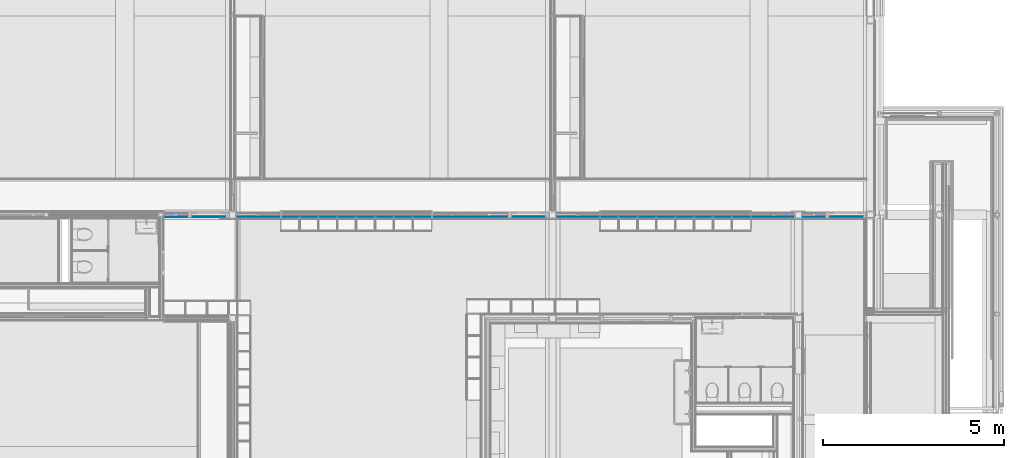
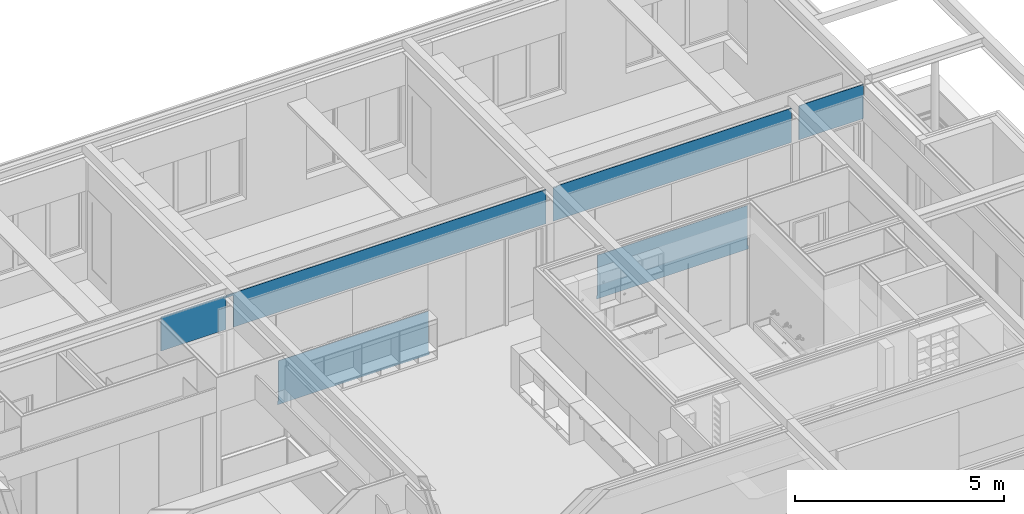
# One storey, part 51 of 137: 1 building element part, 14 openings, 1 element without a shape of its own.
"""IFC2X3 building model written with IfcOpenShell, lengths in millimetres."""

from ifc_helpers import new_model, entity, si_unit, converted_unit, derived_unit, money_unit, direction, frame, origin_with_axes, place, context, subcontext, project, spatial, faceted_brep, material, type_object, element, aggregate, save


model = new_model("IFC2X3")

# Units and contexts
model_context = context("Model", 3, precision=0.01, world=origin_with_axes(), true_north=direction((0.0, 1.0)))
body_context = subcontext(model_context, "Body", "Model", "MODEL_VIEW")
ifc_project = project(units=[si_unit("LENGTHUNIT", "METRE", prefix="MILLI"), si_unit("AREAUNIT", "SQUARE_METRE"), si_unit("VOLUMEUNIT", "CUBIC_METRE"), converted_unit("PLANEANGLEUNIT", "DEGREE", entity("IfcPlaneAngleMeasure", 0.0174532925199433), si_unit("PLANEANGLEUNIT", "RADIAN"), dimensions=[0, 0, 0, 0, 0, 0, 0]), money_unit("EUR"), converted_unit("TIMEUNIT", "Year", entity("IfcTimeMeasure", 31556926.0), si_unit("TIMEUNIT", "SECOND"), dimensions=[0, 0, 1, 0, 0, 0, 0]), si_unit("MASSUNIT", "GRAM", prefix="KILO"), si_unit("THERMODYNAMICTEMPERATUREUNIT", "DEGREE_CELSIUS"), si_unit("LUMINOUSINTENSITYUNIT", "LUMEN"), si_unit("ENERGYUNIT", "JOULE", prefix="MEGA"), derived_unit("THERMALCONDUCTANCEUNIT", [(si_unit("POWERUNIT", "WATT"), 1), (si_unit("LENGTHUNIT", "METRE"), -1), (si_unit("THERMODYNAMICTEMPERATUREUNIT", "KELVIN"), -1)]), derived_unit("SPECIFICHEATCAPACITYUNIT", [(si_unit("ENERGYUNIT", "JOULE"), 1), (si_unit("MASSUNIT", "GRAM", prefix="KILO"), -1), (si_unit("THERMODYNAMICTEMPERATUREUNIT", "KELVIN"), -1)]), derived_unit("MASSDENSITYUNIT", [(si_unit("MASSUNIT", "GRAM", prefix="KILO"), 1), (si_unit("VOLUMEUNIT", "CUBIC_METRE"), -1)])], contexts=[model_context])

# Site, building, storey
site_placement = place(None, origin_with_axes())
site = spatial("IfcSite", under=ifc_project, at=site_placement, Name="Site", CompositionType="ELEMENT")
building_placement = place(site_placement, origin_with_axes())
building = spatial("IfcBuilding", under=site, at=building_placement, Name="Naam gebouw", CompositionType="ELEMENT")
storey_placement = place(building_placement, frame((0.0, 0.0, 3960.0), z_axis=(0.0, 0.0, 1.0), x_axis=(1.0, 0.0, 0.0)))
storey = spatial("IfcBuildingStorey", under=building, at=storey_placement, Name="1e verdieping", CompositionType="ELEMENT", Elevation=3960.0)

# Proxy, openings, building element part
building_element_proxy_type = type_object("IfcBuildingElementProxyType", Name="22 Metal stud 125 gips 125", PredefinedType="NOTDEFINED")
proxy_placement = place(storey_placement, frame((6940.0, 22324.97621406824, -100.0000000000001), z_axis=(0.0, 0.0, 1.0), x_axis=(1.0, 0.0, 0.0)))
proxy = element("IfcBuildingElementProxy", 1, at=proxy_placement, inside=storey, type_object=building_element_proxy_type, Name="_Wand-x")
opening_1_placement = place(proxy_placement, frame((16859.99903999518, 0.0, 100.0000000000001), z_axis=(0.0, 0.0, 1.0), x_axis=(1.0, 0.0, 0.0)))
element("IfcOpeningElement", 2, at=opening_1_placement, cuts=proxy, Name="_B.01", context=body_context, shape_type="Brep", body=[
    faceted_brep([(599.9999999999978, -12.49999999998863, -100.0000000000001), (599.9999999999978, -12.49999999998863, 2600.0), (599.9999999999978, -63.49999999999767, 2600.0), (599.9999999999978, -63.49999999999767, -100.0000000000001), (599.9999999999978, 63.50000000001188, -100.0000000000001), (599.9999999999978, 63.50000000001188, 2600.0), (-599.9999999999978, -12.49999999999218, 2600.0), (-599.9999999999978, -63.50000000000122, 2600.0), (-599.9999999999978, 63.50000000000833, 2600.0), (-599.9999999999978, -63.50000000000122, -100.0000000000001), (-599.9999999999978, -12.49999999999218, -100.0000000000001), (-599.9999999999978, 63.50000000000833, -100.0000000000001)], [[[0, 1, 2, 3]], [[1, 0, 4, 5]], [[6, 7, 2, 1, 5, 8]], [[7, 9, 3, 2]], [[0, 3, 9, 10, 11, 4]], [[5, 4, 11, 8]], [[6, 10, 9, 7]], [[10, 6, 8, 11]]]),
])
opening_2_placement = place(proxy_placement, frame((11459.99903999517, 0.0, 100.0000000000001), z_axis=(0.0, 0.0, 1.0), x_axis=(1.0, 0.0, 0.0)))
element("IfcOpeningElement", 3, at=opening_2_placement, cuts=proxy, Name="_B.01", context=body_context, shape_type="Brep", body=[
    faceted_brep([(600.0000000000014, -12.49999999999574, -100.0000000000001), (600.0000000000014, -12.49999999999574, 2600.0), (600.0000000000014, -63.50000000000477, 2600.0), (600.0000000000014, -63.50000000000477, -100.0000000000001), (600.0000000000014, 63.50000000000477, -100.0000000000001), (600.0000000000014, 63.50000000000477, 2600.0), (-600.0000000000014, -12.49999999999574, 2600.0), (-600.0000000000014, -63.50000000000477, 2600.0), (-600.0000000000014, 63.50000000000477, 2600.0), (-600.0000000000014, -63.50000000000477, -100.0000000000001), (-600.0000000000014, -12.49999999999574, -100.0000000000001), (-600.0000000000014, 63.50000000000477, -100.0000000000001)], [[[0, 1, 2, 3]], [[1, 0, 4, 5]], [[6, 7, 2, 1, 5, 8]], [[7, 9, 3, 2]], [[0, 3, 9, 10, 11, 4]], [[5, 4, 11, 8]], [[6, 10, 9, 7]], [[10, 6, 8, 11]]]),
])
opening_3_placement = place(proxy_placement, frame((7954.999824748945, 0.0, 100.0000000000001), z_axis=(0.0, 0.0, 1.0), x_axis=(1.0, 0.0, 0.0)))
element("IfcOpeningElement", 4, at=opening_3_placement, cuts=proxy, Name="_B.06", context=body_context, shape_type="Brep", body=[
    faceted_brep([(524.9998247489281, -12.49999999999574, -100.0000000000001), (524.9998247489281, -12.49999999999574, 2600.0), (524.9998247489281, -63.50000000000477, 2600.0), (524.9998247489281, -63.50000000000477, -100.0000000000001), (524.9998247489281, 63.50000000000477, -100.0000000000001), (524.9998247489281, 63.50000000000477, 2600.0), (-524.9998247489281, -12.49999999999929, 2600.0), (-524.9998247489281, -63.50000000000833, 2600.0), (-524.9998247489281, 63.50000000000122, 2600.0), (-524.9998247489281, -63.50000000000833, -100.0000000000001), (-524.9998247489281, -12.49999999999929, -100.0000000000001), (-524.9998247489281, 63.50000000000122, -100.0000000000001)], [[[0, 1, 2, 3]], [[1, 0, 4, 5]], [[6, 7, 2, 1, 5, 8]], [[7, 9, 3, 2]], [[0, 3, 9, 10, 11, 4]], [[5, 4, 11, 8]], [[6, 10, 9, 7]], [[10, 6, 8, 11]]]),
])
opening_4_placement = place(proxy_placement, frame((15209.99903999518, 0.0, 1300.0), z_axis=(0.0, 0.0, 1.0), x_axis=(1.0, 0.0, 0.0)))
element("IfcOpeningElement", 5, at=opening_4_placement, cuts=proxy, Name="_C.01", context=body_context, shape_type="Brep", body=[
    faceted_brep([(1050.000000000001, -12.49999999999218, 0.0), (1050.000000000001, -12.49999999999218, 1400.0), (1050.000000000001, -63.50000000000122, 1400.0), (1050.000000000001, -63.50000000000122, 0.0), (1050.000000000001, 63.50000000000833, 0.0), (1050.000000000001, 63.50000000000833, 1400.0), (-1050.000000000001, -12.49999999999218, 1400.0), (-1050.000000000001, -63.50000000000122, 1400.0), (-1050.000000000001, 63.50000000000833, 1400.0), (-1050.000000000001, -63.50000000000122, 0.0), (-1050.000000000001, -12.49999999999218, 0.0), (-1050.000000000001, 63.50000000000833, 0.0)], [[[0, 1, 2, 3]], [[1, 0, 4, 5]], [[6, 7, 2, 1, 5, 8]], [[7, 9, 3, 2]], [[0, 3, 9, 10, 11, 4]], [[5, 4, 11, 8]], [[6, 10, 9, 7]], [[10, 6, 8, 11]]]),
])
opening_5_placement = place(proxy_placement, frame((2620.000000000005, 0.0, 100.0000000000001), z_axis=(0.0, 0.0, 1.0), x_axis=(1.0, 0.0, 0.0)))
element("IfcOpeningElement", 6, at=opening_5_placement, cuts=proxy, Name="_B.03", context=body_context, shape_type="Brep", body=[
    faceted_brep([(610.0000000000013, -12.49999999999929, -100.0000000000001), (610.0000000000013, -12.49999999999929, 2600.0), (610.0000000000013, -63.50000000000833, 2600.0), (610.0000000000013, -63.50000000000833, -100.0000000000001), (610.0000000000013, 63.50000000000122, -100.0000000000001), (610.0000000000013, 63.50000000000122, 2600.0), (-610.0000000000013, -12.49999999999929, 2600.0), (-610.0000000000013, -63.50000000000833, 2600.0), (-610.0000000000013, 63.50000000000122, 2600.0), (-610.0000000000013, -63.50000000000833, -100.0000000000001), (-610.0000000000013, -12.49999999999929, -100.0000000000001), (-610.0000000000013, 63.50000000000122, -100.0000000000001)], [[[0, 1, 2, 3]], [[1, 0, 4, 5]], [[6, 7, 2, 1, 5, 8]], [[7, 9, 3, 2]], [[0, 3, 9, 10, 11, 4]], [[5, 4, 11, 8]], [[6, 10, 9, 7]], [[10, 6, 8, 11]]]),
])
opening_6_placement = place(proxy_placement, frame((6380.000000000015, 0.0, 1300.0), z_axis=(0.0, 0.0, 1.0), x_axis=(1.0, 0.0, 0.0)))
element("IfcOpeningElement", 7, at=opening_6_placement, cuts=proxy, Name="_C.01", context=body_context, shape_type="Brep", body=[
    faceted_brep([(1050.000000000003, -12.49999999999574, 0.0), (1050.000000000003, -12.49999999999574, 1400.0), (1050.000000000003, -63.50000000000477, 1400.0), (1050.000000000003, -63.50000000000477, 0.0), (1050.000000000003, 63.50000000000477, 0.0), (1050.000000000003, 63.50000000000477, 1400.0), (-1050.000000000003, -12.49999999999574, 1400.0), (-1050.000000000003, -63.50000000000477, 1400.0), (-1050.000000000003, 63.50000000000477, 1400.0), (-1050.000000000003, -63.50000000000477, 0.0), (-1050.000000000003, -12.49999999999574, 0.0), (-1050.000000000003, 63.50000000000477, 0.0)], [[[0, 1, 2, 3]], [[1, 0, 4, 5]], [[6, 7, 2, 1, 5, 8]], [[7, 9, 3, 2]], [[0, 3, 9, 10, 11, 4]], [[5, 4, 11, 8]], [[6, 10, 9, 7]], [[10, 6, 8, 11]]]),
])
opening_7_placement = place(proxy_placement, frame((4279.999712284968, 0.0, 1300.0), z_axis=(0.0, 0.0, 1.0), x_axis=(1.0, 0.0, 0.0)))
element("IfcOpeningElement", 8, at=opening_7_placement, cuts=proxy, Name="_C.01", context=body_context, shape_type="Brep", body=[
    faceted_brep([(1049.999712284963, -12.49999999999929, 0.0), (1049.999712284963, -12.49999999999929, 1400.0), (1049.999712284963, -63.50000000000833, 1400.0), (1049.999712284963, -63.50000000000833, 0.0), (1049.999712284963, 63.50000000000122, 0.0), (1049.999712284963, 63.50000000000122, 1400.0), (-1049.999712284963, -12.49999999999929, 1400.0), (-1049.999712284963, -63.50000000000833, 1400.0), (-1049.999712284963, 63.50000000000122, 1400.0), (-1049.999712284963, -63.50000000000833, 0.0), (-1049.999712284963, -12.49999999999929, 0.0), (-1049.999712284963, 63.50000000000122, 0.0)], [[[0, 1, 2, 3]], [[1, 0, 4, 5]], [[6, 7, 2, 1, 5, 8]], [[7, 9, 3, 2]], [[0, 3, 9, 10, 11, 4]], [[5, 4, 11, 8]], [[6, 10, 9, 7]], [[10, 6, 8, 11]]]),
])
opening_8_placement = place(proxy_placement, frame((9004.999474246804, 0.0, 100.0000000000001), z_axis=(0.0, 0.0, 1.0), x_axis=(1.0, 0.0, 0.0)))
element("IfcOpeningElement", 9, at=opening_8_placement, cuts=proxy, Name="_B.06", context=body_context, shape_type="Brep", body=[
    faceted_brep([(524.9998247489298, -12.49999999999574, -100.0000000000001), (524.9998247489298, -12.49999999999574, 2600.0), (524.9998247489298, -63.50000000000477, 2600.0), (524.9998247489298, -63.50000000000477, -100.0000000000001), (524.9998247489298, 63.50000000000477, -100.0000000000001), (524.9998247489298, 63.50000000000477, 2600.0), (-524.9998247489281, -12.49999999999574, 2600.0), (-524.9998247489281, -63.50000000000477, 2600.0), (-524.9998247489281, 63.50000000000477, 2600.0), (-524.9998247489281, -63.50000000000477, -100.0000000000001), (-524.9998247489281, -12.49999999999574, -100.0000000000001), (-524.9998247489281, 63.50000000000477, -100.0000000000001)], [[[0, 1, 2, 3]], [[1, 0, 4, 5]], [[6, 7, 2, 1, 5, 8]], [[7, 9, 3, 2]], [[0, 3, 9, 10, 11, 4]], [[5, 4, 11, 8]], [[6, 10, 9, 7]], [[10, 6, 8, 11]]]),
])
opening_9_placement = place(proxy_placement, frame((17987.99950490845, 0.0, 100.0000000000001), z_axis=(0.0, 0.0, 1.0), x_axis=(1.0, 0.0, 0.0)))
element("IfcOpeningElement", 10, at=opening_9_placement, cuts=proxy, Name="_B.09", context=body_context, shape_type="Brep", body=[
    faceted_brep([(-328.0004950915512, 12.50000000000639, -100.0000000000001), (-328.0004950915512, 12.50000000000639, 2600.0), (-328.0004950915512, 63.50000000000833, 2600.0), (-328.0004950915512, 63.50000000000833, -100.0000000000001), (-328.0004950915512, -63.50000000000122, -100.0000000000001), (-328.0004950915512, -63.50000000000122, 2600.0), (328.0004950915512, 12.50000000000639, 2600.0), (328.0004950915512, 63.50000000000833, 2600.0), (328.0004950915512, -63.50000000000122, 2600.0), (328.0004950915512, 63.50000000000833, -100.0000000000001), (328.0004950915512, 12.50000000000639, -100.0000000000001), (328.0004950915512, -63.50000000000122, -100.0000000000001)], [[[0, 1, 2, 3]], [[1, 0, 4, 5]], [[6, 7, 2, 1, 5, 8]], [[7, 9, 3, 2]], [[0, 3, 9, 10, 11, 4]], [[5, 4, 11, 8]], [[6, 10, 9, 7]], [[10, 6, 8, 11]]]),
])
opening_10_placement = place(proxy_placement, frame((18881.0, 0.0, 100.0000000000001), z_axis=(0.0, 0.0, 1.0), x_axis=(1.0, 0.0, 0.0)))
element("IfcOpeningElement", 11, at=opening_10_placement, cuts=proxy, Name="_01.01", context=body_context, shape_type="Brep", body=[
    faceted_brep([(-565.0000000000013, -63.50000000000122, 2600.0), (-565.0000000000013, -63.50000000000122, -100.0000000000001), (565.0000000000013, -63.50000000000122, -100.0000000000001), (565.0000000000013, -63.50000000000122, 2600.0), (-565.0000000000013, 63.50000000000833, 2600.0), (-565.0000000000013, 63.50000000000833, -100.0000000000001), (565.0000000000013, 63.50000000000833, -100.0000000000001), (565.0000000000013, 63.50000000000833, 2600.0)], [[[0, 1, 2, 3]], [[4, 5, 1, 0]], [[5, 6, 2, 1]], [[6, 7, 3, 2]], [[7, 4, 0, 3]], [[6, 5, 4, 7]]]),
])
opening_11_placement = place(proxy_placement, frame((339.9999604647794, 0.0, 100.0000000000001), z_axis=(0.0, 0.0, 1.0), x_axis=(1.0, 0.0, 0.0)))
element("IfcOpeningElement", 12, at=opening_11_placement, cuts=proxy, Name="_B.07", context=body_context, shape_type="Brep", body=[
    faceted_brep([(-339.9999604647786, 12.49999999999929, -100.0000000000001), (-339.9999604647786, 12.49999999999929, 2600.0), (-339.9999604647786, 63.50000000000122, 2600.0), (-339.9999604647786, 63.50000000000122, -100.0000000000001), (-339.9999604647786, -63.50000000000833, -100.0000000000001), (-339.9999604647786, -63.50000000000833, 2600.0), (339.9999604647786, 12.49999999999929, 2600.0), (339.9999604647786, 63.50000000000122, 2600.0), (339.9999604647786, -63.50000000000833, 2600.0), (339.9999604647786, 63.50000000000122, -100.0000000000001), (339.9999604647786, 12.49999999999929, -100.0000000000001), (339.9999604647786, -63.50000000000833, -100.0000000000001)], [[[0, 1, 2, 3]], [[1, 0, 4, 5]], [[6, 7, 2, 1, 5, 8]], [[7, 9, 3, 2]], [[0, 3, 9, 10, 11, 4]], [[5, 4, 11, 8]], [[6, 10, 9, 7]], [[10, 6, 8, 11]]]),
])
opening_12_placement = place(proxy_placement, frame((10094.99929899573, 0.0, 100.0000000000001), z_axis=(0.0, 0.0, 1.0), x_axis=(1.0, 0.0, 0.0)))
element("IfcOpeningElement", 13, at=opening_12_placement, cuts=proxy, Name="_01.01", context=body_context, shape_type="Brep", body=[
    faceted_brep([(-565.0000000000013, -63.50000000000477, 2600.0), (-565.0000000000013, -63.50000000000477, -100.0000000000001), (565.0000000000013, -63.50000000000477, -100.0000000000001), (565.0000000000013, -63.50000000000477, 2600.0), (-565.0000000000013, 63.50000000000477, 2600.0), (-565.0000000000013, 63.50000000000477, -100.0000000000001), (565.0000000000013, 63.50000000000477, -100.0000000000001), (565.0000000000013, 63.50000000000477, 2600.0)], [[[0, 1, 2, 3]], [[4, 5, 1, 0]], [[5, 6, 2, 1]], [[6, 7, 3, 2]], [[7, 4, 0, 3]], [[6, 5, 4, 7]]]),
])
opening_13_placement = place(proxy_placement, frame((13109.99903999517, 0.0, 1300.0), z_axis=(0.0, 0.0, 1.0), x_axis=(1.0, 0.0, 0.0)))
element("IfcOpeningElement", 14, at=opening_13_placement, cuts=proxy, Name="_C.01", context=body_context, shape_type="Brep", body=[
    faceted_brep([(1050.000000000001, -12.49999999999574, 0.0), (1050.000000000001, -12.49999999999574, 1400.0), (1050.000000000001, -63.50000000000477, 1400.0), (1050.000000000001, -63.50000000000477, 0.0), (1050.000000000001, 63.50000000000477, 0.0), (1050.000000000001, 63.50000000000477, 1400.0), (-1050.000000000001, -12.49999999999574, 1400.0), (-1050.000000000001, -63.50000000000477, 1400.0), (-1050.000000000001, 63.50000000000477, 1400.0), (-1050.000000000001, -63.50000000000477, 0.0), (-1050.000000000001, -12.49999999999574, 0.0), (-1050.000000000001, 63.50000000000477, 0.0)], [[[0, 1, 2, 3]], [[1, 0, 4, 5]], [[6, 7, 2, 1, 5, 8]], [[7, 9, 3, 2]], [[0, 3, 9, 10, 11, 4]], [[5, 4, 11, 8]], [[6, 10, 9, 7]], [[10, 6, 8, 11]]]),
])
opening_14_placement = place(proxy_placement, frame((1244.999920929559, 0.0, 100.0000000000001), z_axis=(0.0, 0.0, 1.0), x_axis=(1.0, 0.0, 0.0)))
element("IfcOpeningElement", 15, at=opening_14_placement, cuts=proxy, Name="_01.01", context=body_context, shape_type="Brep", body=[
    faceted_brep([(-564.9999999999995, -63.50000000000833, 2600.0), (-564.9999999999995, -63.50000000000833, -100.0000000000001), (564.9999999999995, -63.50000000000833, -100.0000000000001), (564.9999999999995, -63.50000000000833, 2600.0), (-564.9999999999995, 63.50000000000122, 2600.0), (-564.9999999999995, 63.50000000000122, -100.0000000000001), (564.9999999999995, 63.50000000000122, -100.0000000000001), (564.9999999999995, 63.50000000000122, 2600.0)], [[[0, 1, 2, 3]], [[4, 5, 1, 0]], [[5, 6, 2, 1]], [[6, 7, 3, 2]], [[7, 4, 0, 3]], [[6, 5, 4, 7]]]),
])
ifc_material = material(Name="Gipsplaat")
building_element_part_placement = place(proxy_placement, origin_with_axes())
building_element_part = element("IfcBuildingElementPart", 16, at=building_element_part_placement, material=ifc_material, Name="Gipsplaat", context=body_context, shape_type="Brep", body=[
    faceted_brep([(16239.9990399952, -49.99999999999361, 1280.000000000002), (16239.9990399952, -50.00000000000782, 100.0000000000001), (16259.99903999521, -49.99999999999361, 100.0000000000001), (16259.99903999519, -49.99999999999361, 0.0), (12059.99903999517, -49.99999999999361, 0.0), (12059.99882555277, -49.99999999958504, 100.0000000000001), (12079.9988255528, -49.99999999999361, 100.0000000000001), (12079.99882556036, -49.99999999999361, 1280.000000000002), (16239.9990399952, -62.49696365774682, 1280.000000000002), (16239.9990399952, -62.49696365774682, 100.0000000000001), (16259.99903999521, -62.49696365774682, 100.0000000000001), (16259.99903999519, -62.49999999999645, 0.0), (12059.99903999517, -62.49999999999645, 0.0), (12059.99880174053, -62.49296094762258, 100.0000000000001), (12079.99880174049, -62.49299906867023, 100.0000000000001), (12079.99880174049, -62.49696365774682, 1280.000000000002)], [[[0, 1, 2, 3, 4, 5, 6, 7]], [[1, 0, 8, 9]], [[10, 2, 1, 9]], [[2, 10, 11, 3]], [[11, 12, 4, 3]], [[5, 4, 12, 13]], [[5, 13, 14, 6]], [[6, 14, 15, 7]], [[8, 0, 7, 15]], [[9, 8, 15, 14, 13, 12, 11, 10]]]),
    faceted_brep([(17459.99903999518, -62.49999999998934, 2700.0), (10859.99903999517, -62.49999999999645, 2700.0), (10859.99903999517, -49.99999999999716, 2700.0), (17459.99903999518, -49.99999999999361, 2700.0), (17459.99903999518, -62.49999999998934, 3685.000029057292), (17359.99903999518, -62.49999999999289, 3685.000029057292), (17359.99903999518, -62.49999999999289, 3695.000029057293), (17458.99903999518, -62.49999999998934, 3695.000029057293), (17458.99903999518, -62.49999999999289, 3700.0), (10860.99942456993, -62.49999999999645, 3700.0), (10860.99942456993, -62.49999999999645, 3695.000029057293), (10959.99942456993, -62.49999999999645, 3695.000029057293), (10959.99942456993, -62.49999999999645, 3675.000029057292), (10859.99942456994, -62.49999999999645, 3675.000029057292), (10859.99942456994, -49.99999999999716, 3675.000029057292), (10959.99942456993, -49.99999999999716, 3675.000029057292), (10959.99942456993, -49.99999999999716, 3695.000029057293), (10860.99942456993, -49.99999999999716, 3695.000029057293), (10860.99942456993, -49.99999999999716, 3700.0), (17458.99903999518, -49.99999999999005, 3700.0), (17458.99903999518, -49.99999999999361, 3695.000029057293), (17359.99903999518, -49.99999999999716, 3695.000029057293), (17359.99903999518, -49.99999999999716, 3685.000029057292), (17459.99903999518, -49.99999999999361, 3685.000029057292)], [[[0, 1, 2, 3]], [[1, 0, 4, 5, 6, 7, 8, 9, 10, 11, 12, 13]], [[1, 13, 14, 2]], [[3, 2, 14, 15, 16, 17, 18, 19, 20, 21, 22, 23]], [[23, 4, 0, 3]], [[5, 4, 23, 22]], [[6, 5, 22, 21]], [[7, 6, 21, 20]], [[8, 7, 20, 19]], [[18, 9, 8, 19]], [[17, 10, 9, 18]], [[11, 10, 17, 16]], [[12, 11, 16, 15]], [[15, 14, 13, 12]]]),
    faceted_brep([(3230.000000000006, -50.00000000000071, 0.0), (3230.000000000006, -62.5, 0.0), (3229.999761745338, -62.49296094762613, 100.0000000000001), (3230.000023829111, -50.00000000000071, 100.0000000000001), (7430.000000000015, -49.99999999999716, 0.0), (7430.000000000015, -62.5, 0.0), (7365.384615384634, -62.49848182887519, 1280.000000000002), (3249.999761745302, -62.49696365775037, 1280.000000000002), (3249.999761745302, -62.49299906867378, 100.0000000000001), (3249.999785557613, -50.00000000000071, 100.0000000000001), (3249.999785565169, -50.00000000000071, 1280.000000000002), (7410.000000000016, -50.00000000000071, 1280.000000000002), (7410.000000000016, -50.00000000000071, 100.0000000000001), (7430.000000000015, -49.99999999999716, 100.0000000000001), (7430.000000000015, -62.49696365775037, 100.0000000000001), (7410.000000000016, -62.49696365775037, 100.0000000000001), (7410.000000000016, -62.49696365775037, 1280.000000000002)], [[[0, 1, 2, 3]], [[1, 0, 4, 5]], [[2, 1, 6, 7, 8]], [[2, 8, 9, 3]], [[0, 3, 9, 10, 11, 12, 13, 4]], [[14, 5, 4, 13]], [[1, 5, 14, 15]], [[1, 16, 6]], [[7, 6, 16, 11, 10]], [[8, 7, 10, 9]], [[16, 15, 12, 11]], [[12, 15, 14, 13]], [[16, 1, 15]]]),
    faceted_brep([(1810.000000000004, -62.49999999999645, 3630.0), (1809.999920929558, -62.49999999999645, 2700.0), (1809.999920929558, -50.00000000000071, 2700.0), (1810.000000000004, -50.00000000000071, 3630.0), (0.0, -62.5, 2700.0), (2010.000000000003, -62.49999999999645, 3630.0), (2010.000000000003, -62.49999999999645, 2700.0), (10659.99929899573, -62.49999999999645, 2700.0), (10659.99942456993, -62.49999999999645, 3675.000029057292), (10559.99942456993, -62.49999999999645, 3675.000029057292), (10559.99942456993, -62.49999999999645, 3695.000029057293), (10658.99942456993, -62.49999999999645, 3695.000029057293), (10658.99942456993, -62.49999999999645, 3700.0), (2011.006867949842, -62.5, 3700.0), (2011.006867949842, -62.5, 3695.000002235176), (2110.00686794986, -62.49999999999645, 3695.000002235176), (2110.00686794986, -62.49999999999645, 3683.000002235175), (1710.00686794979, -62.5, 3683.000002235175), (1710.00686794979, -62.5, 3695.000002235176), (1809.006867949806, -62.5, 3695.000002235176), (1809.006867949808, -62.5, 3700.0), (0.0, -62.5, 3700.0), (0.0, -50.00000000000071, 2700.0), (0.0, -50.00000000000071, 3700.0), (1809.006875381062, -50.00000000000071, 3700.0), (1809.00687538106, -50.00000000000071, 3695.000002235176), (1710.006875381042, -50.00000000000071, 3695.000002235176), (1710.006875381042, -50.00000000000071, 3683.000002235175), (2110.006875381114, -50.00000000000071, 3683.000002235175), (2110.006875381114, -50.00000000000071, 3695.000002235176), (2011.006875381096, -50.00000000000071, 3695.000002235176), (2011.006875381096, -50.00000000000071, 3700.0), (10658.99942456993, -49.99999999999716, 3700.0), (10658.99942456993, -49.99999999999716, 3695.000029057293), (10559.99942456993, -49.99999999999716, 3695.000029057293), (10559.99942456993, -49.99999999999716, 3675.000029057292), (10659.99942456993, -49.99999999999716, 3675.000029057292), (10659.99929899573, -49.99999999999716, 2700.0), (2010.000000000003, -50.00000000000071, 2700.0), (2010.000000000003, -50.00000000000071, 3630.0)], [[[0, 1, 2, 3]], [[4, 1, 0, 5, 6, 7, 8, 9, 10, 11, 12, 13, 14, 15, 16, 17, 18, 19, 20, 21]], [[22, 2, 1, 4]], [[3, 2, 22, 23, 24, 25, 26, 27, 28, 29, 30, 31, 32, 33, 34, 35, 36, 37, 38, 39]], [[39, 5, 0, 3]], [[6, 5, 39, 38]], [[37, 7, 6, 38]], [[7, 37, 36, 8]], [[9, 8, 36, 35]], [[10, 9, 35, 34]], [[11, 10, 34, 33]], [[12, 11, 33, 32]], [[12, 32, 31, 13]], [[30, 14, 13, 31]], [[15, 14, 30, 29]], [[16, 15, 29, 28]], [[17, 16, 28, 27]], [[18, 17, 27, 26]], [[19, 18, 26, 25]], [[20, 19, 25, 24]], [[23, 21, 20, 24]], [[4, 21, 23, 22]]]),
    faceted_brep([(2005.006875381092, -50.00000000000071, 3700.0), (1815.00687538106, -50.00000000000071, 3700.0), (1815.006867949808, -62.5, 3700.0), (2005.006867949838, -62.5, 3700.0), (2005.006875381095, -50.00000000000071, 3695.000002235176), (1815.006875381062, -50.00000000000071, 3695.000002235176), (1815.006867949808, -62.49999999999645, 3695.000002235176), (2005.006867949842, -62.5, 3695.000002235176)], [[[0, 1, 2, 3]], [[4, 5, 1, 0]], [[6, 2, 1, 5]], [[6, 7, 3, 2]], [[7, 4, 0, 3]], [[6, 5, 4, 7]]]),
    faceted_brep([(19446.0, -62.49999999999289, 2700.0), (19446.0, -49.99999999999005, 2700.0), (19446.0, -49.99999999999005, 3683.0), (19446.0, -62.49999999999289, 3683.0), (18316.0, -49.99999999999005, 2700.0), (18316.0, -62.49999999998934, 2700.0), (17659.9990098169, -62.49999999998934, 2700.0), (17659.9990098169, -49.99999999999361, 2700.0), (17659.99903999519, -49.99999999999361, 3685.000029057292), (17759.99903999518, -49.99999999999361, 3685.000029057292), (17759.99903999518, -49.99999999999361, 3695.000029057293), (17660.99903999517, -49.99999999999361, 3695.000029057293), (17660.99903663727, -49.99999999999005, 3700.0), (19446.0, -49.99999999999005, 3700.0), (19446.0, -49.99999999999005, 3695.000000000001), (19360.99999552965, -49.99999999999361, 3695.000000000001), (19360.99999552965, -49.99999999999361, 3683.0), (19360.99999552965, -62.49999999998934, 3683.0), (19360.99999552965, -62.49999999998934, 3695.000000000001), (19446.0, -62.49999999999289, 3695.000000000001), (19446.0, -62.49999999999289, 3700.0), (17660.99903663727, -62.49999999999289, 3700.0), (17660.99903999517, -62.49999999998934, 3695.000029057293), (17759.99903999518, -62.49999999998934, 3695.000029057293), (17759.99903999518, -62.49999999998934, 3685.000029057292), (17659.99903999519, -62.49999999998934, 3685.000029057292)], [[[0, 1, 2, 3]], [[4, 1, 0, 5, 6, 7]], [[1, 4, 7, 8, 9, 10, 11, 12, 13, 14, 15, 16, 2]], [[2, 16, 17, 3]], [[5, 0, 3, 17, 18, 19, 20, 21, 22, 23, 24, 25, 6]], [[6, 25, 8, 7]], [[24, 9, 8, 25]], [[9, 24, 23, 10]], [[10, 23, 22, 11]], [[12, 11, 22, 21]], [[21, 20, 13, 12]], [[14, 13, 20, 19]], [[14, 19, 18, 15]], [[15, 18, 17, 16]]]),
])
aggregate(proxy, [building_element_part])

save(model, "model.ifc")
